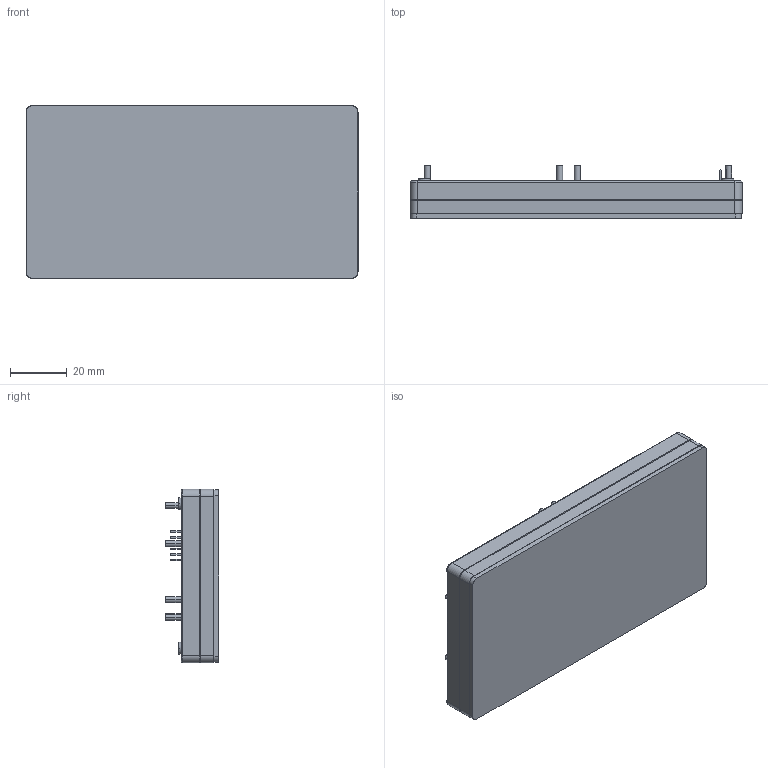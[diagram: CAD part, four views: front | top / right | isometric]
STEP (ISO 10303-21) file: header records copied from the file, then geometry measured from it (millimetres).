
FILE_DESCRIPTION((''),'2;1');
FILE_NAME('TLA_500W_12V_BRICK_SW0003','2022-04-04T11:09:36',('ALEX.WONG'),(''),'CREO PARAMETRIC BY PTC INC, 2020454','CREO PARAMETRIC BY PTC INC, 2020454','');
FILE_SCHEMA(('CONFIG_CONTROL_DESIGN','SHAPE_APPEARANCE_LAYERS_GROUPS'));
Length unit declared in the file: millimetre
Products named in the file (1): TLA_500W_12V_BRICK_SW0003
Bounding box: 116.8 x 18.69 x 61 mm (x, y, z)
Volume: 93482.4 mm3; surface area: 22565.5 mm2
Topology: 1 solids, 1 shells, 212 faces, 476 edges, 292 vertices
Faces by surface type: plane 148, cylinder 36, cone 24, torus 4
Entity records: 8781 total; most frequent: DIRECTION 1008, CARTESIAN_POINT 980, ORIENTED_EDGE 952, PRESENTATION_STYLE_ASSIGNMENT 677, STYLED_ITEM 477, CURVE_STYLE 476, EDGE_CURVE 476, VECTOR 368
